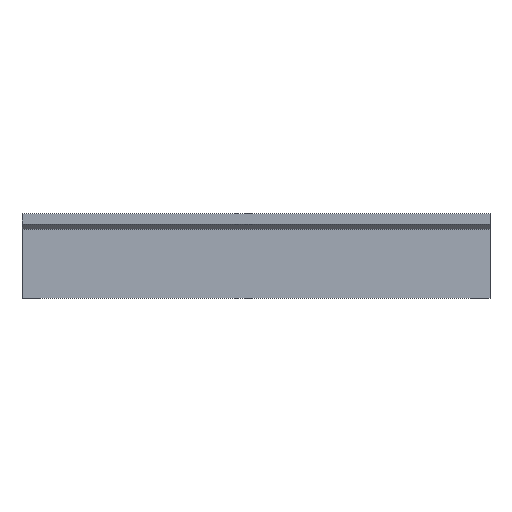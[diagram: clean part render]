
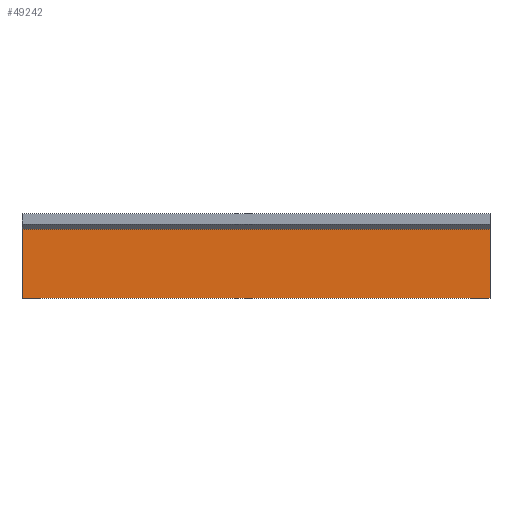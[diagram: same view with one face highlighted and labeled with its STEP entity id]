
A CAD part, left-side view. The second image highlights one B-rep face of the part: STEP entity #49242.
In plain terms, the highlighted planar face has unit normal (-1, 0, 0).
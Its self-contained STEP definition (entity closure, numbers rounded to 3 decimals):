
#32 = PLANE('',#33);
#33 = AXIS2_PLACEMENT_3D('',#34,#35,#36);
#34 = CARTESIAN_POINT('',(-200.,-101.,3.));
#35 = DIRECTION('',(-0.,1.,0.));
#36 = DIRECTION('',(0.,0.,1.));
#767 = PLANE('',#768);
#768 = AXIS2_PLACEMENT_3D('',#769,#770,#771);
#769 = CARTESIAN_POINT('',(0.,0.,0.));
#770 = DIRECTION('',(0.,0.,1.));
#771 = DIRECTION('',(1.,0.,-0.));
#863 = VERTEX_POINT('',#864);
#864 = CARTESIAN_POINT('',(-192.,-101.,0.));
#884 = EDGE_CURVE('',#885,#863,#887,.T.);
#885 = VERTEX_POINT('',#886);
#886 = CARTESIAN_POINT('',(-192.,-101.,29.9));
#887 = SURFACE_CURVE('',#888,(#892,#899),.PCURVE_S1.);
#888 = LINE('',#889,#890);
#889 = CARTESIAN_POINT('',(-192.,-101.,29.9));
#890 = VECTOR('',#891,1.);
#891 = DIRECTION('',(0.,0.,-1.));
#892 = PCURVE('',#32,#893);
#893 = DEFINITIONAL_REPRESENTATION('',(#894),#898);
#894 = LINE('',#895,#896);
#895 = CARTESIAN_POINT('',(26.9,8.));
#896 = VECTOR('',#897,1.);
#897 = DIRECTION('',(-1.,0.));
#898 = ( GEOMETRIC_REPRESENTATION_CONTEXT(2) 
PARAMETRIC_REPRESENTATION_CONTEXT() REPRESENTATION_CONTEXT('2D SPACE',''
  ) );
#899 = PCURVE('',#900,#905);
#900 = PLANE('',#901);
#901 = AXIS2_PLACEMENT_3D('',#902,#903,#904);
#902 = CARTESIAN_POINT('',(-192.,152.,4.));
#903 = DIRECTION('',(1.,0.,-0.));
#904 = DIRECTION('',(0.,-1.,0.));
#905 = DEFINITIONAL_REPRESENTATION('',(#906),#910);
#906 = LINE('',#907,#908);
#907 = CARTESIAN_POINT('',(253.,-25.9));
#908 = VECTOR('',#909,1.);
#909 = DIRECTION('',(0.,1.));
#910 = ( GEOMETRIC_REPRESENTATION_CONTEXT(2) 
PARAMETRIC_REPRESENTATION_CONTEXT() REPRESENTATION_CONTEXT('2D SPACE',''
  ) );
#930 = B_SPLINE_SURFACE_WITH_KNOTS('',1,1,(
    (#931,#932)
    ,(#933,#934
    )),.UNSPECIFIED.,.F.,.F.,.F.,(2,2),(2,2),(0.,330.1),(0.,1.),
  .PIECEWISE_BEZIER_KNOTS.);
#931 = CARTESIAN_POINT('',(-192.,152.,29.9));
#932 = CARTESIAN_POINT('',(-194.1,152.,32.));
#933 = CARTESIAN_POINT('',(-192.,-176.,29.9));
#934 = CARTESIAN_POINT('',(-194.1,-178.1,32.));
#948 = VERTEX_POINT('',#949);
#949 = CARTESIAN_POINT('',(-192.,101.,29.9));
#969 = PLANE('',#970);
#970 = AXIS2_PLACEMENT_3D('',#971,#972,#973);
#971 = CARTESIAN_POINT('',(-200.,101.,3.));
#972 = DIRECTION('',(-0.,1.,0.));
#973 = DIRECTION('',(0.,0.,1.));
#983 = EDGE_CURVE('',#948,#885,#984,.T.);
#984 = SURFACE_CURVE('',#985,(#989,#995),.PCURVE_S1.);
#985 = LINE('',#986,#987);
#986 = CARTESIAN_POINT('',(-192.,152.,29.9));
#987 = VECTOR('',#988,1.);
#988 = DIRECTION('',(0.,-1.,0.));
#989 = PCURVE('',#930,#990);
#990 = DEFINITIONAL_REPRESENTATION('',(#991),#994);
#991 = B_SPLINE_CURVE_WITH_KNOTS('',1,(#992,#993),.UNSPECIFIED.,.F.,.F.,
  (2,2),(0.,328.),.PIECEWISE_BEZIER_KNOTS.);
#992 = CARTESIAN_POINT('',(0.,0.));
#993 = CARTESIAN_POINT('',(330.1,0.));
#994 = ( GEOMETRIC_REPRESENTATION_CONTEXT(2) 
PARAMETRIC_REPRESENTATION_CONTEXT() REPRESENTATION_CONTEXT('2D SPACE',''
  ) );
#995 = PCURVE('',#900,#996);
#996 = DEFINITIONAL_REPRESENTATION('',(#997),#1001);
#997 = LINE('',#998,#999);
#998 = CARTESIAN_POINT('',(0.,-25.9));
#999 = VECTOR('',#1000,1.);
#1000 = DIRECTION('',(1.,0.));
#1001 = ( GEOMETRIC_REPRESENTATION_CONTEXT(2) 
PARAMETRIC_REPRESENTATION_CONTEXT() REPRESENTATION_CONTEXT('2D SPACE',''
  ) );
#1822 = VERTEX_POINT('',#1823);
#1823 = CARTESIAN_POINT('',(-192.,101.,0.));
#1843 = EDGE_CURVE('',#948,#1822,#1844,.T.);
#1844 = SURFACE_CURVE('',#1845,(#1849,#1856),.PCURVE_S1.);
#1845 = LINE('',#1846,#1847);
#1846 = CARTESIAN_POINT('',(-192.,101.,29.9));
#1847 = VECTOR('',#1848,1.);
#1848 = DIRECTION('',(0.,0.,-1.));
#1849 = PCURVE('',#969,#1850);
#1850 = DEFINITIONAL_REPRESENTATION('',(#1851),#1855);
#1851 = LINE('',#1852,#1853);
#1852 = CARTESIAN_POINT('',(26.9,8.));
#1853 = VECTOR('',#1854,1.);
#1854 = DIRECTION('',(-1.,0.));
#1855 = ( GEOMETRIC_REPRESENTATION_CONTEXT(2) 
PARAMETRIC_REPRESENTATION_CONTEXT() REPRESENTATION_CONTEXT('2D SPACE',''
  ) );
#1856 = PCURVE('',#900,#1857);
#1857 = DEFINITIONAL_REPRESENTATION('',(#1858),#1862);
#1858 = LINE('',#1859,#1860);
#1859 = CARTESIAN_POINT('',(51.,-25.9));
#1860 = VECTOR('',#1861,1.);
#1861 = DIRECTION('',(0.,1.));
#1862 = ( GEOMETRIC_REPRESENTATION_CONTEXT(2) 
PARAMETRIC_REPRESENTATION_CONTEXT() REPRESENTATION_CONTEXT('2D SPACE',''
  ) );
#49242 = ADVANCED_FACE('',(#49243),#900,.F.);
#49243 = FACE_BOUND('',#49244,.F.);
#49244 = EDGE_LOOP('',(#49245,#49246,#49266,#49267));
#49245 = ORIENTED_EDGE('',*,*,#884,.T.);
#49246 = ORIENTED_EDGE('',*,*,#49247,.F.);
#49247 = EDGE_CURVE('',#1822,#863,#49248,.T.);
#49248 = SURFACE_CURVE('',#49249,(#49253,#49260),.PCURVE_S1.);
#49249 = LINE('',#49250,#49251);
#49250 = CARTESIAN_POINT('',(-192.,76.,0.));
#49251 = VECTOR('',#49252,1.);
#49252 = DIRECTION('',(0.,-1.,0.));
#49253 = PCURVE('',#900,#49254);
#49254 = DEFINITIONAL_REPRESENTATION('',(#49255),#49259);
#49255 = LINE('',#49256,#49257);
#49256 = CARTESIAN_POINT('',(76.,4.));
#49257 = VECTOR('',#49258,1.);
#49258 = DIRECTION('',(1.,0.));
#49259 = ( GEOMETRIC_REPRESENTATION_CONTEXT(2) 
PARAMETRIC_REPRESENTATION_CONTEXT() REPRESENTATION_CONTEXT('2D SPACE',''
  ) );
#49260 = PCURVE('',#767,#49261);
#49261 = DEFINITIONAL_REPRESENTATION('',(#49262),#49265);
#49262 = B_SPLINE_CURVE_WITH_KNOTS('',1,(#49263,#49264),.UNSPECIFIED.,
  .F.,.F.,(2,2),(-25.,177.),.PIECEWISE_BEZIER_KNOTS.);
#49263 = CARTESIAN_POINT('',(-192.,101.));
#49264 = CARTESIAN_POINT('',(-192.,-101.));
#49265 = ( GEOMETRIC_REPRESENTATION_CONTEXT(2) 
PARAMETRIC_REPRESENTATION_CONTEXT() REPRESENTATION_CONTEXT('2D SPACE',''
  ) );
#49266 = ORIENTED_EDGE('',*,*,#1843,.F.);
#49267 = ORIENTED_EDGE('',*,*,#983,.T.);
